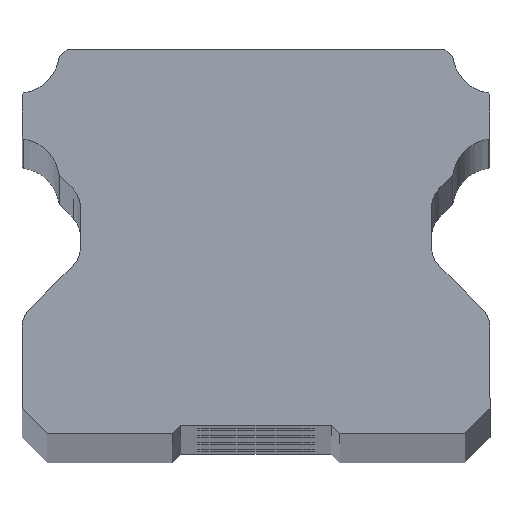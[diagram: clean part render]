
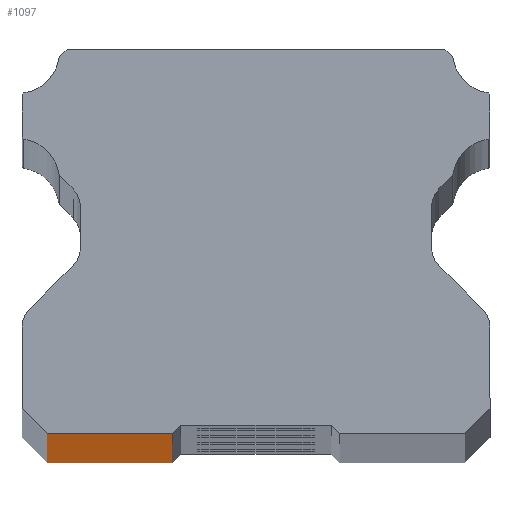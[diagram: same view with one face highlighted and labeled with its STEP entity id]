
A CAD part, top view. The second image highlights one B-rep face of the part: STEP entity #1097.
In plain terms, the highlighted planar face has unit normal (0, -1, 0).
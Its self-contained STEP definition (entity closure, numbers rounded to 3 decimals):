
#93 = ORIENTED_EDGE ( 'NONE', *, *, #1719, .F. ) ;
#179 = EDGE_CURVE ( 'NONE', #1808, #3104, #2341, .T. ) ;
#185 = ORIENTED_EDGE ( 'NONE', *, *, #2372, .T. ) ;
#186 = VECTOR ( 'NONE', #541, 1000. ) ;
#470 = LINE ( 'NONE', #2535, #2995 ) ;
#541 = DIRECTION ( 'NONE',  ( 0., 0., -1. ) ) ;
#726 = VERTEX_POINT ( 'NONE', #3271 ) ;
#861 = EDGE_LOOP ( 'NONE', ( #185, #1624, #93, #3063 ) ) ;
#995 = DIRECTION ( 'NONE',  ( 1., 0., 0. ) ) ;
#1097 = ADVANCED_FACE ( 'NONE', ( #1423 ), #1211, .F. ) ;
#1105 = CARTESIAN_POINT ( 'NONE',  ( -4.868, -11.295, 0. ) ) ;
#1155 = CARTESIAN_POINT ( 'NONE',  ( -12.368, -11.295, 1000. ) ) ;
#1211 = PLANE ( 'NONE',  #1871 ) ;
#1221 = LINE ( 'NONE', #2011, #3055 ) ;
#1244 = LINE ( 'NONE', #3047, #1777 ) ;
#1418 = CARTESIAN_POINT ( 'NONE',  ( -4.868, -11.295, 1000. ) ) ;
#1423 = FACE_OUTER_BOUND ( 'NONE', #861, .T. ) ;
#1624 = ORIENTED_EDGE ( 'NONE', *, *, #179, .F. ) ;
#1719 = EDGE_CURVE ( 'NONE', #2855, #1808, #470, .T. ) ;
#1777 = VECTOR ( 'NONE', #995, 1000. ) ;
#1808 = VERTEX_POINT ( 'NONE', #1418 ) ;
#1871 = AXIS2_PLACEMENT_3D ( 'NONE', #1155, #3188, #2183 ) ;
#2011 = CARTESIAN_POINT ( 'NONE',  ( -12.368, -11.295, 1000. ) ) ;
#2183 = DIRECTION ( 'NONE',  ( 0., 0., 1. ) ) ;
#2253 = DIRECTION ( 'NONE',  ( 0., 0., -1. ) ) ;
#2289 = DIRECTION ( 'NONE',  ( 1., 0., 0. ) ) ;
#2341 = LINE ( 'NONE', #2354, #186 ) ;
#2354 = CARTESIAN_POINT ( 'NONE',  ( -4.868, -11.295, 1000. ) ) ;
#2372 = EDGE_CURVE ( 'NONE', #726, #3104, #1244, .T. ) ;
#2394 = EDGE_CURVE ( 'NONE', #2855, #726, #1221, .T. ) ;
#2535 = CARTESIAN_POINT ( 'NONE',  ( -12.368, -11.295, 1000. ) ) ;
#2855 = VERTEX_POINT ( 'NONE', #3016 ) ;
#2995 = VECTOR ( 'NONE', #2289, 1000. ) ;
#3016 = CARTESIAN_POINT ( 'NONE',  ( -12.368, -11.295, 1000. ) ) ;
#3047 = CARTESIAN_POINT ( 'NONE',  ( -12.368, -11.295, 0. ) ) ;
#3055 = VECTOR ( 'NONE', #2253, 1000. ) ;
#3063 = ORIENTED_EDGE ( 'NONE', *, *, #2394, .T. ) ;
#3104 = VERTEX_POINT ( 'NONE', #1105 ) ;
#3188 = DIRECTION ( 'NONE',  ( 0., 1., 0. ) ) ;
#3271 = CARTESIAN_POINT ( 'NONE',  ( -12.368, -11.295, 0. ) ) ;
